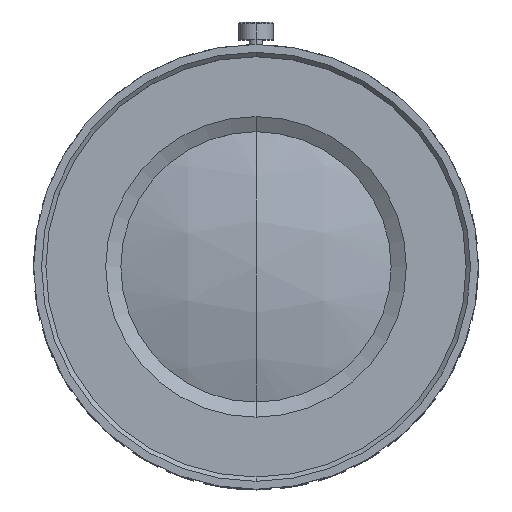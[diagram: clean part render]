
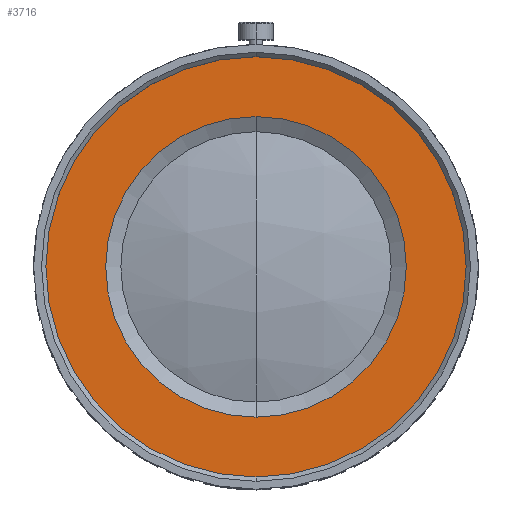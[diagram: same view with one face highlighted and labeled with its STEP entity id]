
A CAD part, top view. The second image highlights one B-rep face of the part: STEP entity #3716.
In plain terms, the highlighted planar face has unit normal (0, 0, 1).
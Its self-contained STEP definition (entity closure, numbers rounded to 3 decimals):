
#70 = CARTESIAN_POINT ( 'NONE',  ( 0., 0., 67.482 ) ) ;
#92 = VERTEX_POINT ( 'NONE', #7706 ) ;
#459 = FACE_BOUND ( 'NONE', #4370, .T. ) ;
#473 = EDGE_CURVE ( 'NONE', #6982, #3363, #9904, .T. ) ;
#751 = DIRECTION ( 'NONE',  ( 0., 1., 0. ) ) ;
#874 = AXIS2_PLACEMENT_3D ( 'NONE', #70, #5521, #5764 ) ;
#1732 = AXIS2_PLACEMENT_3D ( 'NONE', #8924, #3632, #9794 ) ;
#1780 = PLANE ( 'NONE',  #4347 ) ;
#2115 = AXIS2_PLACEMENT_3D ( 'NONE', #8597, #3259, #9453 ) ;
#2687 = ORIENTED_EDGE ( 'NONE', *, *, #3315, .T. ) ;
#2725 = DIRECTION ( 'NONE',  ( 0., -1., 0. ) ) ;
#3014 = EDGE_CURVE ( 'NONE', #3363, #6982, #8247, .T. ) ;
#3259 = DIRECTION ( 'NONE',  ( 0., 0., -1. ) ) ;
#3315 = EDGE_CURVE ( 'NONE', #92, #8572, #8117, .T. ) ;
#3363 = VERTEX_POINT ( 'NONE', #6963 ) ;
#3632 = DIRECTION ( 'NONE',  ( 0., 0., -1. ) ) ;
#3716 = ADVANCED_FACE ( 'NONE', ( #459, #5026 ), #1780, .T. ) ;
#4303 = EDGE_LOOP ( 'NONE', ( #5810, #5242 ) ) ;
#4347 = AXIS2_PLACEMENT_3D ( 'NONE', #5411, #8111, #2725 ) ;
#4370 = EDGE_LOOP ( 'NONE', ( #2687, #4894 ) ) ;
#4774 = CARTESIAN_POINT ( 'NONE',  ( 0., -24.095, 67.482 ) ) ;
#4894 = ORIENTED_EDGE ( 'NONE', *, *, #10805, .T. ) ;
#5026 = FACE_OUTER_BOUND ( 'NONE', #4303, .T. ) ;
#5242 = ORIENTED_EDGE ( 'NONE', *, *, #473, .F. ) ;
#5411 = CARTESIAN_POINT ( 'NONE',  ( 0., 24.095, 67.482 ) ) ;
#5521 = DIRECTION ( 'NONE',  ( 0., 0., -1. ) ) ;
#5764 = DIRECTION ( 'NONE',  ( 0., 1., 0. ) ) ;
#5810 = ORIENTED_EDGE ( 'NONE', *, *, #3014, .F. ) ;
#6202 = DIRECTION ( 'NONE',  ( 0., 0., -1. ) ) ;
#6225 = CARTESIAN_POINT ( 'NONE',  ( 0., 17.232, 67.482 ) ) ;
#6963 = CARTESIAN_POINT ( 'NONE',  ( 0., 24.095, 67.482 ) ) ;
#6982 = VERTEX_POINT ( 'NONE', #4774 ) ;
#7706 = CARTESIAN_POINT ( 'NONE',  ( 0., -17.232, 67.482 ) ) ;
#8111 = DIRECTION ( 'NONE',  ( 0., 0., 1. ) ) ;
#8117 = CIRCLE ( 'NONE', #2115, 17.232 ) ;
#8150 = AXIS2_PLACEMENT_3D ( 'NONE', #11356, #6202, #751 ) ;
#8247 = CIRCLE ( 'NONE', #1732, 24.095 ) ;
#8572 = VERTEX_POINT ( 'NONE', #6225 ) ;
#8597 = CARTESIAN_POINT ( 'NONE',  ( 0., 0., 67.482 ) ) ;
#8924 = CARTESIAN_POINT ( 'NONE',  ( 0., 0., 67.482 ) ) ;
#9453 = DIRECTION ( 'NONE',  ( 0., 1., 0. ) ) ;
#9619 = CIRCLE ( 'NONE', #8150, 17.232 ) ;
#9794 = DIRECTION ( 'NONE',  ( 0., 1., 0. ) ) ;
#9904 = CIRCLE ( 'NONE', #874, 24.095 ) ;
#10805 = EDGE_CURVE ( 'NONE', #8572, #92, #9619, .T. ) ;
#11356 = CARTESIAN_POINT ( 'NONE',  ( 0., 0., 67.482 ) ) ;
